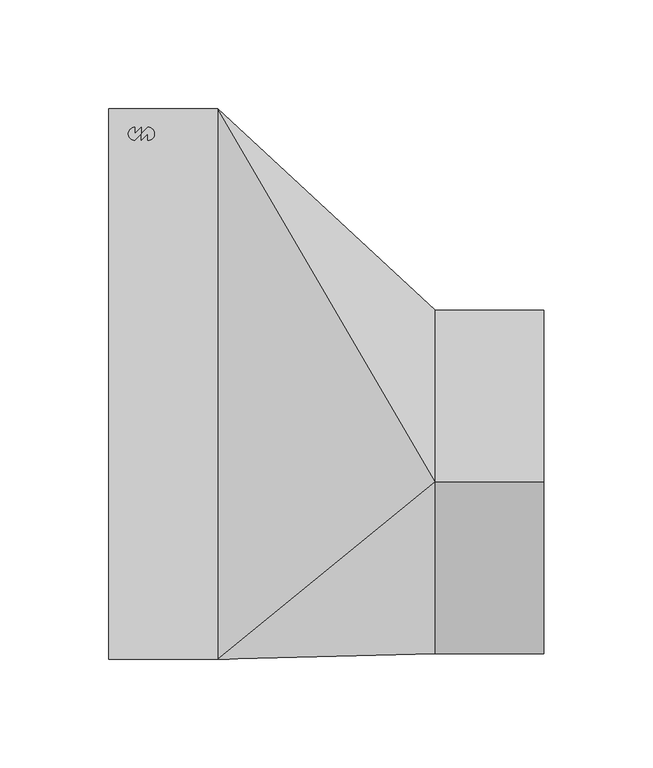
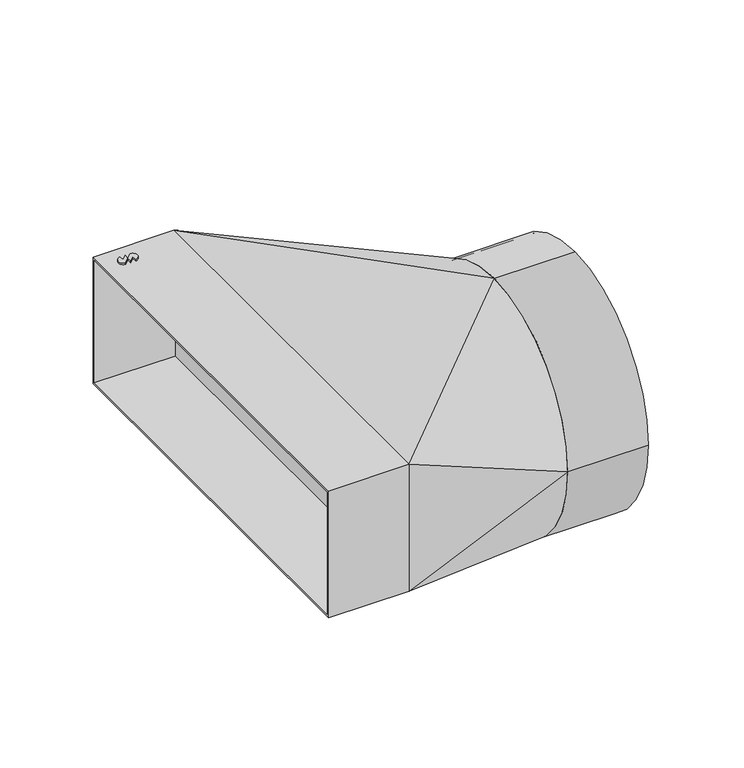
"""IFC4 building model written with IfcOpenShell, lengths in millimetres: duct fitting geometry, NLRS_57_DUF_UN_instortkanaal-rechthoekig-naar-rond-verloop_LT_velu : SZV (smalle zijde vlak)."""

from ifc_helpers import new_model, si_unit, point, frame, frame_2d, origin, place, context, project, spatial, polyline, circle_curve, trimmed, segment, composite_curve, outline, extrude, source, transform, mapped, element, save
from ifc_brep_helpers import plane_surface, spline_surface, advanced_brep


def duct_fitting_e17ad3fe(model_context):
    return source(origin(), model_context, "Body", "SolidModel", [
        extrude(outline(composite_curve([segment(polyline([(-82.0, 112.0), (-82.0, 115.0), (-85.0, 112.0), (-85.0, 115.0), (-82.0, 118.0)]), True, "CONTINUOUS"), segment(trimmed(circle_curve(frame_2d((-82.0, 115.0)), 3.0), [point((-82.0, 118.0))], [point((-82.0, 112.0))], False, "CARTESIAN"), True, "CONTINUOUS")], self_intersect=False)), frame((0.0, 0.0, -42.5), z_axis=(0.0, 0.0, 1.0), x_axis=(1.0, 0.0, 0.0)), (0.0, 0.0, 1.0), 1.0),
        extrude(outline(composite_curve([segment(polyline([(-88.0, 118.0), (-88.0, 115.0), (-85.0, 118.0), (-85.0, 115.0), (-88.0, 112.0)]), True, "CONTINUOUS"), segment(trimmed(circle_curve(frame_2d((-88.0, 115.0)), 3.0), [point((-88.0, 112.0))], [point((-88.0, 118.0))], False, "CARTESIAN"), True, "CONTINUOUS")], self_intersect=False)), frame((0.0, 0.0, -42.5), z_axis=(0.0, 0.0, 1.0), x_axis=(1.0, 0.0, 0.0)), (0.0, 0.0, 1.0), 1.0),
        extrude(outline(composite_curve([segment(polyline([(-88.0, 118.0), (-88.0, 115.0), (-85.0, 118.0), (-85.0, 115.0), (-88.0, 112.0)]), True, "CONTINUOUS"), segment(trimmed(circle_curve(frame_2d((-88.0, 115.0)), 3.0), [point((-88.0, 112.0))], [point((-88.0, 118.0))], False, "CARTESIAN"), True, "CONTINUOUS")], self_intersect=False)), frame((0.0, 0.0, 41.5), z_axis=(0.0, 0.0, 1.0), x_axis=(1.0, 0.0, 0.0)), (0.0, 0.0, 1.0), 1.0),
        extrude(outline(composite_curve([segment(polyline([(-82.0, 112.0), (-82.0, 115.0), (-85.0, 112.0), (-85.0, 115.0), (-82.0, 118.0)]), True, "CONTINUOUS"), segment(trimmed(circle_curve(frame_2d((-82.0, 115.0)), 3.0), [point((-82.0, 118.0))], [point((-82.0, 112.0))], False, "CARTESIAN"), True, "CONTINUOUS")], self_intersect=False)), frame((0.0, 0.0, 41.5), z_axis=(0.0, 0.0, 1.0), x_axis=(1.0, 0.0, 0.0)), (0.0, 0.0, 1.0), 1.0),
        extrude(outline(composite_curve([segment(trimmed(circle_curve(frame_2d((-45.0, 0.0)), 79.0), [point((34.0, 0.0))], [point((-45.0, -79.0))], False, "CARTESIAN"), True, "CONTINUOUS"), segment(trimmed(circle_curve(frame_2d((-45.0, 0.0)), 79.0), [point((-45.0, -79.0))], [point((-124.0, 0.0))], False, "CARTESIAN"), True, "CONTINUOUS"), segment(trimmed(circle_curve(frame_2d((-45.0, 0.0)), 79.0), [point((-124.0, 0.0))], [point((-45.0, 79.0))], False, "CARTESIAN"), True, "CONTINUOUS"), segment(trimmed(circle_curve(frame_2d((-45.0, 0.0)), 79.0), [point((-45.0, 79.0))], [point((34.0, 0.0))], False, "CARTESIAN"), True, "CONTINUOUS")], self_intersect=False), holes=[composite_curve([segment(trimmed(circle_curve(frame_2d((-45.0, 0.0)), 78.0), [point((-45.0, 78.0))], [point((-123.0, 0.0))], True, "CARTESIAN"), True, "CONTINUOUS"), segment(trimmed(circle_curve(frame_2d((-45.0, 0.0)), 78.0), [point((-123.0, 0.0))], [point((-45.0, -78.0))], True, "CARTESIAN"), True, "CONTINUOUS"), segment(trimmed(circle_curve(frame_2d((-45.0, 0.0)), 78.0), [point((-45.0, -78.0))], [point((33.0, 0.0))], True, "CARTESIAN"), True, "CONTINUOUS"), segment(trimmed(circle_curve(frame_2d((-45.0, 0.0)), 78.0), [point((33.0, 0.0))], [point((-45.0, 78.0))], True, "CARTESIAN"), True, "CONTINUOUS")], self_intersect=False)]), frame((50.0, 0.0, 0.0), z_axis=(1.0, 0.0, 0.0), x_axis=(0.0, 1.0, 0.0)), (0.0, 0.0, 1.0), 50.0),
        extrude(outline(polyline([(-126.5, 41.5), (126.5, 41.5), (126.5, -41.5), (-126.5, -41.5), (-126.5, 41.5)]), holes=[polyline([(-125.0, -40.0), (125.0, -40.0), (125.0, 40.0), (-125.0, 40.0), (-125.0, -40.0)])]), frame((-100.0, 0.0, 0.0), z_axis=(1.0, 0.0, 0.0), x_axis=(0.0, 1.0, 0.0)), (0.0, 0.0, 1.0), 50.0),
        advanced_brep(
        [(50.0, -45.0, 79.0), (50.0, -124.0, 0.0), (50.0, -45.0, -79.0), (50.0, 34.0, 0.0), (-50.0, -126.5, 41.5), (-50.0, 126.5, 41.5), (-50.0, 126.5, -41.5), (-50.0, -126.5, -41.5)],
        [
            (0, 1, circle_curve(frame((50.0, -45.0, 0.0), z_axis=(1.0, 0.0, 0.0), x_axis=(0.0, 1.0, 0.0)), 79.0)),
            (1, 2, circle_curve(frame((50.0, -45.0, 0.0), z_axis=(1.0, 0.0, 0.0), x_axis=(0.0, 1.0, 0.0)), 79.0)),
            (2, 3, circle_curve(frame((50.0, -45.0, 0.0), z_axis=(1.0, 0.0, 0.0), x_axis=(0.0, 1.0, 0.0)), 79.0)),
            (3, 0, circle_curve(frame((50.0, -45.0, 0.0), z_axis=(1.0, 0.0, 0.0), x_axis=(0.0, 1.0, 0.0)), 79.0)),
            (4, 5),
            (5, 6),
            (6, 7),
            (7, 4),
            (0, 4),
            (4, 1),
            (7, 1),
            (7, 2),
            (6, 2),
            (6, 3),
            (5, 3),
            (5, 0),
        ],
        [
            plane_surface(frame((50.0, -45.0, 0.0), z_axis=(1.0, 0.0, 0.0), x_axis=(0.0, 0.0, 1.0))),
            plane_surface(frame((-50.0, 0.0, 0.0), z_axis=(-1.0, 0.0, 0.0), x_axis=(0.0, 0.0, 1.0))),
            spline_surface(2, 1, [[(-50.0, -126.5, 41.5), (50.0, -45.0, 79.0)], [(-50.0, -126.5, 41.5), (50.0, -124.0, 79.0)], [(-50.0, -126.5, 41.5), (50.0, -124.0, 0.0)]], [3, 3], [2, 2], [0.0, 1.0], [0.0, 1.0], weights=[[1.0, 1.0], [0.7071067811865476, 0.7071067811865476], [1.0, 1.0]]),
            plane_surface(frame((-50.0, -126.5, 0.0), z_axis=(0.024992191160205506, -0.9996876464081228, 0.0), x_axis=(0.0, 0.0, -1.0))),
            spline_surface(2, 1, [[(-50.0, -126.5, -41.5), (50.0, -124.0, 0.0)], [(-50.0, -126.5, -41.5), (50.0, -124.0, -79.0)], [(-50.0, -126.5, -41.5), (50.0, -45.0, -79.0)]], [3, 3], [2, 2], [0.0, 1.0], [0.0, 1.0], weights=[[1.0, 1.0], [0.7071067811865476, 0.7071067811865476], [1.0, 1.0]]),
            plane_surface(frame((-50.0, 0.0, -41.5), z_axis=(-0.35112344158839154, 0.0, -0.9363291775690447), x_axis=(0.0, 1.0, 0.0))),
            spline_surface(2, 1, [[(-50.0, 126.5, -41.5), (50.0, -45.0, -79.0)], [(-50.0, 126.5, -41.5), (50.0, 34.0, -79.0)], [(-50.0, 126.5, -41.5), (50.0, 34.0, 0.0)]], [3, 3], [2, 2], [0.0, 1.0], [0.0, 1.0], weights=[[1.0, 1.0], [0.7071067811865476, 0.7071067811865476], [1.0, 1.0]]),
            plane_surface(frame((-50.0, 126.5, 0.0), z_axis=(0.6790419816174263, 0.7340994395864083, 0.0), x_axis=(0.0, 0.0, 1.0))),
            spline_surface(2, 1, [[(-50.0, 126.5, 41.5), (50.0, 34.0, 0.0)], [(-50.0, 126.5, 41.5), (50.0, 34.0, 79.0)], [(-50.0, 126.5, 41.5), (50.0, -45.0, 79.0)]], [3, 3], [2, 2], [0.0, 1.0], [0.0, 1.0], weights=[[1.0, 1.0], [0.7071067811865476, 0.7071067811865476], [1.0, 1.0]]),
            plane_surface(frame((-50.0, 0.0, 41.5), z_axis=(-0.3511234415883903, 0.0, 0.936329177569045), x_axis=(0.0, -1.0, 0.0))),
        ],
        [
            (0, [[1, 2, 3, 4]]),
            (1, [[5, 6, 7, 8]]),
            (2, [[-1, 9, 10]]),
            (3, [[-8, 11, -10]]),
            (4, [[-2, -11, 12]]),
            (5, [[-7, 13, -12]]),
            (6, [[-3, -13, 14]]),
            (7, [[-6, 15, -14]]),
            (8, [[-4, -15, 16]]),
            (9, [[-5, -9, -16]]),
        ],
    ),
    ])


if __name__ == "__main__":
    model = new_model("IFC4")
    model_context = context("Model", 3, world=origin())
    ifc_project = project(units=[si_unit("LENGTHUNIT", "METRE", prefix="MILLI")], contexts=[model_context])
    site = spatial("IfcSite", under=ifc_project)
    building = spatial("IfcBuilding", under=site)
    placement = place(None, origin())
    duct_fitting_shape = duct_fitting_e17ad3fe(model_context)
    element("IfcDuctFitting", 1, ObjectType="NLRS_57_DUF_UN_instortkanaal-rechthoekig-naar-rond-verloop_LT_velu : SZV (smalle zijde vlak)", at=placement, inside=building, context=model_context, shape_type="MappedRepresentation", body=[
        mapped(duct_fitting_shape, transform((0.0, 0.0, 0.0), x_axis=(1.0, 0.0, 0.0), y_axis=(0.0, 1.0, 0.0), z_axis=(0.0, 0.0, 1.0))),
    ])
    save(model, "model.ifc")
